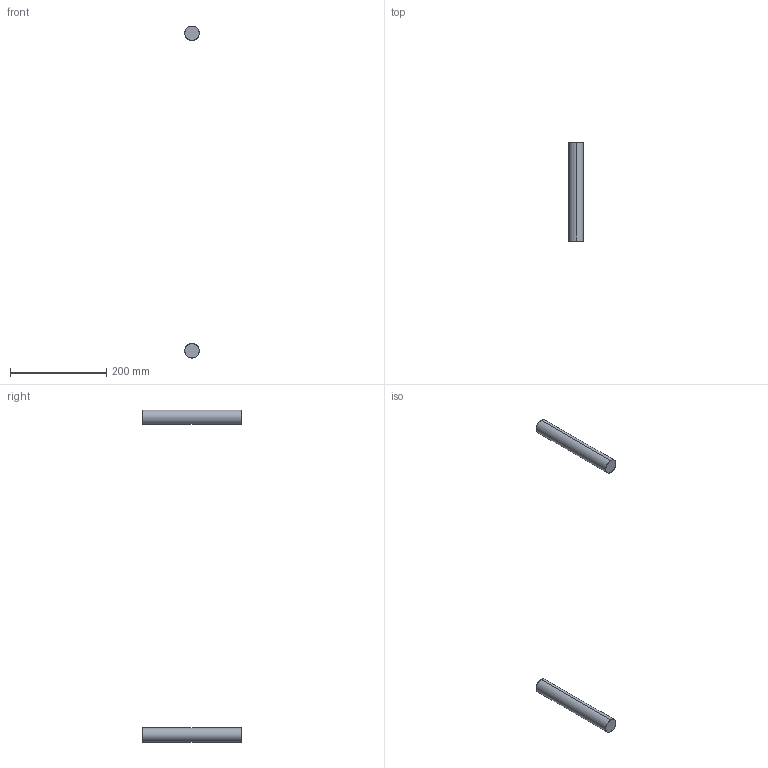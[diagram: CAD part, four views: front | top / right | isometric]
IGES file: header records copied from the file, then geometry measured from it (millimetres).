
Start section: SolidWorks IGES file using analytic representation for surfaces
Global section: file name: \\Logicserver\datos\01-VICCARBE\PRODUCTOS\53-SISTEMA\04-MODELADOS (PLANOS)\WEB\viccarbe-sistema-3D\IGS\Patas metalicas.IGS; native system: SolidWorks 2013; preprocessor: SolidWorks 2013; author: bdisenyo; date: 170125.090817; units: millimetre
Bounding box: 30 x 205 x 690 mm (x, y, z)
Surface area: 41469 mm2 (no closed solid volume)
Topology: 0 solids, 0 shells, 8 faces, 272 edges, 272 vertices
Faces by surface type: revolution 4, bspline 4
